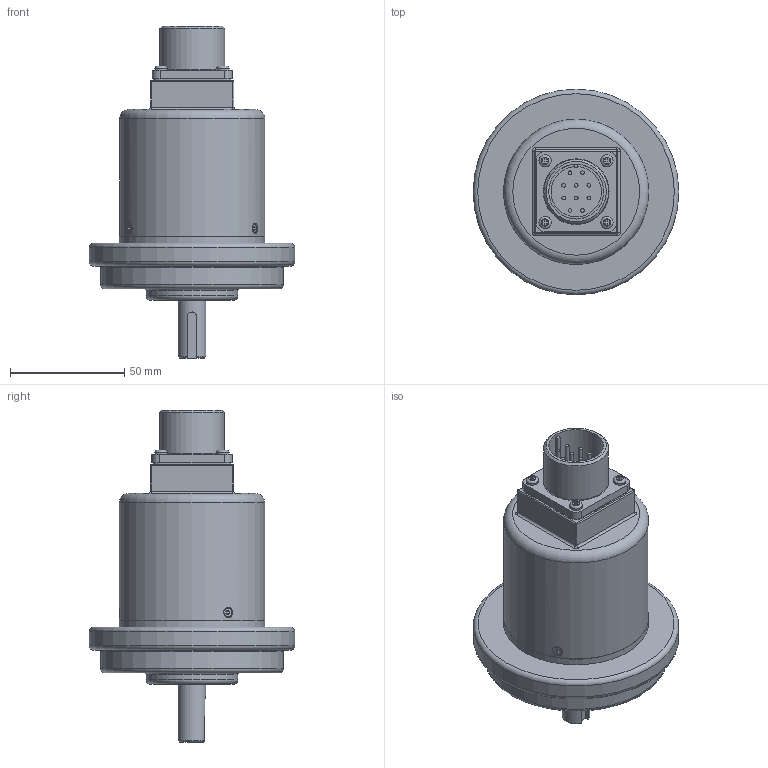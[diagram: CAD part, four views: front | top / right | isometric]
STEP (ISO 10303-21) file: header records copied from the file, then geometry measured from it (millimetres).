
FILE_DESCRIPTION(('FreeCAD Model'),'2;1');
FILE_NAME('Open CASCADE Shape Model','2026-08-04T10:42:59',(''),(''), 'Open CASCADE STEP processor 7.8','FreeCAD','Unknown');
FILE_SCHEMA(('AUTOMOTIVE_DESIGN { 1 0 10303 214 1 1 1 1 }'));
Length unit declared in the file: millimetre
Products named in the file (11): Assembly; 10 Pin MS Gasket; 10 Pin Male MS Connector; Connector Screw; 725 Lid Screw; 745 Resolver Body; 740 Series Bearing; 745 12mm Shaft with Keyway; Disc Hub; Disc Hub Grub Screw; Black Lid End 10 Pin
Assembly tree (17 placements, depth 2):
  Assembly
    10 Pin MS Gasket
    10 Pin Male MS Connector
    Connector Screw  x4
    725 Lid Screw  x3
    745 Resolver Body
    740 Series Bearing  x2
    745 12mm Shaft with Keyway
    Disc Hub
    Disc Hub Grub Screw  x2
    Black Lid End 10 Pin
Bounding box: 89.97 x 89.97 x 145.2 mm (x, y, z)
Volume: 214527.3 mm3; surface area: 74011.1 mm2
Topology: 17 solids, 17 shells, 982 faces, 2094 edges, 1192 vertices
Faces by surface type: bspline 417, cylinder 259, plane 207, torus 53, cone 40, sphere 4, revolution 2
Full cylindrical faces by diameter (mm): 1.6 x10, 1.85 x15, 2.1 x3, 2.35 x2, 2.5 x7, 2.52 x116, 2.7 x4, 2.85 x4, 3 x3, 3.2 x4, 3.3 x2, 3.5 x4, 3.8 x3, 5 x3, 5.4 x4, 7.87 x1, 9.525 x2, 12 x5, 15 x1, 16.45 x1, 16.5 x4, 22 x1, 23.8 x4, 24 x1, 25 x2, 26 x1, 26.6 x1, 28 x4, 28.3 x1, 39.97 x1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
Entity records: 69406 total; most frequent: CARTESIAN_POINT 54172, ORIENTED_EDGE 3572, DIRECTION 1968, EDGE_CURVE 1786, B_SPLINE_CURVE_WITH_KNOTS 1043, VERTEX_POINT 1009, FACE_BOUND 953, EDGE_LOOP 953
